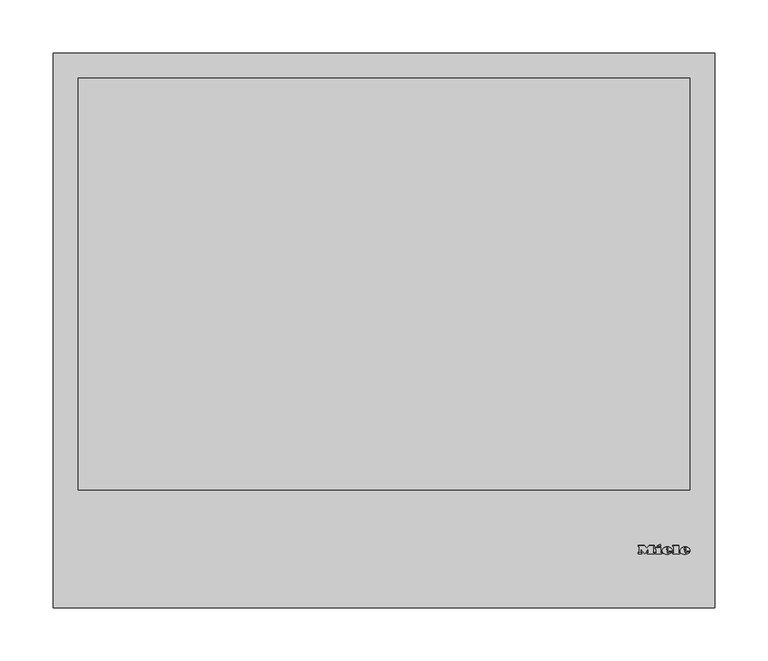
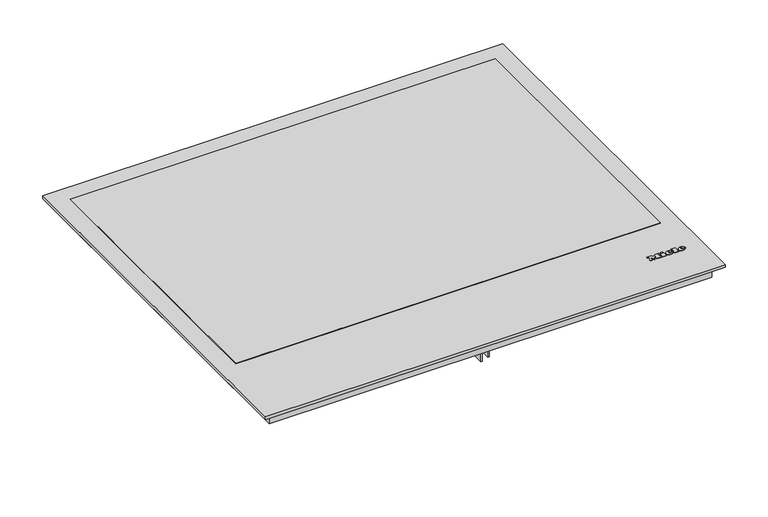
"""IFC4 building model written with IfcOpenShell, lengths in millimetres: proxy geometry, 11154180_I_KM7667FL : 26766770_I_11154180_KM7667FL."""

from ifc_helpers import new_model, si_unit, point, frame, frame_2d, origin, origin_with_axes, place, context, project, spatial, polyline, circle_curve, ellipse_curve, trimmed, segment, composite_curve, outline, extrude, source, transform, mapped, element, save
from ifc_brep_helpers import plane_surface, cylinder_surface, revolved_surface, extruded_surface, advanced_brep


def specialty_equipment_dca31267(model_context):
    return source(origin(), model_context, "Body", "SolidModel", [
        advanced_brep(
        [(281.56, 52.3948833, 4.4802537), (281.56, 53.2028828, 4.4811551), (286.912, 53.2028828, 4.4811551), (277.6, 53.2028828, 4.4811551), (279.8, 50.4988845, 4.4781386), (286.776, 52.3948833, 4.4802537), (284.36, 52.3948833, 4.4802537), (282.456, 51.4988838, 4.4792542), (281.56, 54.2268821, 4.4822974), (281.56, 55.0988816, 4.4832701), (282.928, 55.0988816, 4.4832701), (282.928, 54.2268821, 4.4822974), (281.56, 52.3959988, 3.4802543), (282.456, 51.4999994, 3.4792548), (284.36, 52.3959988, 3.4802543), (286.776, 52.3959988, 3.4802543), (279.8, 50.5, 3.4781393), (277.6, 53.2039983, 3.4811557), (286.912, 53.2039983, 3.4811557), (281.56, 53.2039983, 3.4811557), (281.56, 54.2279977, 3.482298), (282.928, 54.2279977, 3.482298), (282.928, 55.0999971, 3.4832707), (281.56, 55.0999971, 3.4832707)],
        [
            (0, 1),
            (1, 2),
            (2, 3, ellipse_curve(frame((282.256, 53.2028828, 4.4811551), z_axis=(0.0, -0.0011155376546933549, 0.9999993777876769), x_axis=(-1.0, 0.0, 0.0)), 4.656, 3.848)),
            (3, 4, circle_curve(frame((280.6960436, 53.4748826, 4.4814585), z_axis=(0.0, -0.0011155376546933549, 0.9999993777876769), x_axis=(0.0, -0.9999993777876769, -0.0011155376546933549)), 3.1079688)),
            (4, 5, circle_curve(frame((282.1627936, 55.5868813, 4.4838145), z_axis=(0.0, -0.0011155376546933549, 0.9999993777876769), x_axis=(0.0, -0.9999993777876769, -0.0011155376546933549)), 5.6098607)),
            (5, 6),
            (6, 7, circle_curve(frame((282.8470588, 53.1388828, 4.4810837), z_axis=(0.0, 0.0011155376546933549, -0.9999993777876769), x_axis=(0.0, -0.9999993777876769, -0.0011155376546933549)), 1.6859795)),
            (7, 0, circle_curve(frame((282.456, 52.3948833, 4.4802537), z_axis=(0.0, 0.0011155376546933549, -0.9999993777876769), x_axis=(0.0, -0.9999993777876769, -0.0011155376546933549)), 0.896)),
            (8, 9),
            (9, 10, circle_curve(frame((282.244, 55.0988816, 4.4832701), z_axis=(0.0, 0.0011155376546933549, -0.9999993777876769), x_axis=(0.0, -0.9999993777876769, -0.0011155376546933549)), 0.684)),
            (10, 11),
            (11, 8),
            (12, 13, circle_curve(frame((282.456, 52.3959988, 3.4802543), z_axis=(0.0, -0.0011155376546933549, 0.9999993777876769), x_axis=(0.0, -0.9999993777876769, -0.0011155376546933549)), 0.896)),
            (13, 14, circle_curve(frame((282.8470588, 53.1399984, 3.4810843), z_axis=(0.0, -0.0011155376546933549, 0.9999993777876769), x_axis=(0.0, -0.9999993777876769, -0.0011155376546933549)), 1.6859795)),
            (14, 15),
            (15, 16, circle_curve(frame((282.1627936, 55.5879968, 3.4838151), z_axis=(0.0, 0.0011155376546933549, -0.9999993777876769), x_axis=(0.0, -0.9999993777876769, -0.0011155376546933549)), 5.6098607)),
            (16, 17, circle_curve(frame((280.6960436, 53.4759981, 3.4814591), z_axis=(0.0, 0.0011155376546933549, -0.9999993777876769), x_axis=(0.0, -0.9999993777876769, -0.0011155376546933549)), 3.1079688)),
            (17, 18, ellipse_curve(frame((282.256, 53.2039983, 3.4811557), z_axis=(0.0, 0.0011155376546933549, -0.9999993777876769), x_axis=(-1.0, 0.0, 0.0)), 4.656, 3.848)),
            (18, 19),
            (19, 12),
            (20, 21),
            (21, 22),
            (22, 23, circle_curve(frame((282.244, 55.0999971, 3.4832707), z_axis=(0.0, -0.0011155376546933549, 0.9999993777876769), x_axis=(0.0, -0.9999993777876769, -0.0011155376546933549)), 0.684)),
            (23, 20),
            (0, 12),
            (19, 1),
            (18, 2),
            (5, 15),
            (14, 6),
            (17, 3),
            (13, 7),
            (16, 4),
            (8, 20),
            (23, 9),
            (22, 10),
            (21, 11),
        ],
        [
            plane_surface(frame((281.56, 53.2028828, 4.4811551), z_axis=(0.0, -0.0011155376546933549, 0.9999993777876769), x_axis=(0.0, 0.9999993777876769, 0.0011155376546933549))),
            plane_surface(frame((281.56, 53.2039983, 3.4811557), z_axis=(0.0, 0.0011155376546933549, -0.9999993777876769), x_axis=(0.0, -0.9999993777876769, -0.0011155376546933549))),
            plane_surface(frame((281.56, 52.3948833, 4.4802537), z_axis=(1.0000000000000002, 0.0, 0.0), x_axis=(0.0, 0.001115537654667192, -0.999999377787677))),
            plane_surface(frame((281.56, 53.2028828, 4.4811551), z_axis=(0.0, -0.999999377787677, -0.001115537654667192), x_axis=(0.0, 0.001115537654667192, -0.999999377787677))),
            plane_surface(frame((286.776, 52.3948833, 4.4802537), z_axis=(0.0, 0.999999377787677, 0.001115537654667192), x_axis=(0.0, 0.001115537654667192, -0.999999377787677))),
            extruded_surface(trimmed(ellipse_curve(frame((282.256, 53.2051139, 2.4811563), z_axis=(0.0, -0.0011155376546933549, 0.9999993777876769), x_axis=(-1.0, 0.0, 0.0)), 4.656, 3.848), [point((286.912, 53.2051139, 2.4811563))], [point((277.6, 53.2051139, 2.4811563))], True, "CARTESIAN"), (0.0, -0.001115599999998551, 0.9999994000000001), 1.00000002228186),
            revolved_surface(polyline([(282.8470588, 51.454019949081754, 3.479203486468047), (282.8470588, 51.45290441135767, 4.4792029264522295)]), (282.8470588, 53.1399984, 3.4810843), (0.0, 0.0011155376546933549, -0.9999993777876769)),
            revolved_surface(polyline([(282.456, 51.49999935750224, 3.4792547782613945), (282.456, 51.49888381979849, 4.479254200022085)]), (282.456, 52.3959988, 3.4802543), (0.0, 0.0011155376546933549, -0.9999993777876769)),
            cylinder_surface(frame((280.6960436, 53.4759981, 3.4814591), z_axis=(0.0, -0.0011155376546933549, 0.9999993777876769), x_axis=(0.0, -0.9999993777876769, -0.0011155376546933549)), 3.1079688),
            cylinder_surface(frame((282.1627936, 55.5879968, 3.4838151), z_axis=(0.0, -0.0011155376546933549, 0.9999993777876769), x_axis=(0.0, -0.9999993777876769, -0.0011155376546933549)), 5.6098607),
            plane_surface(frame((281.56, 54.2268821, 4.4822974), z_axis=(1.0000000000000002, 0.0, 0.0), x_axis=(0.0, 0.001115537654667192, -0.999999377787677))),
            revolved_surface(polyline([(282.244, 54.415997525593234, 3.4825076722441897), (282.244, 54.41488198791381, 4.482507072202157)]), (282.244, 55.0999971, 3.4832707), (0.0, 0.0011155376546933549, -0.9999993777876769)),
            plane_surface(frame((282.928, 55.0988816, 4.4832701), z_axis=(-1.0000000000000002, 0.0, 0.0), x_axis=(0.0, 0.001115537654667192, -0.999999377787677))),
            plane_surface(frame((282.928, 54.2268821, 4.4822974), z_axis=(0.0, 0.999999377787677, 0.001115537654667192), x_axis=(0.0, 0.001115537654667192, -0.999999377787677))),
        ],
        [
            (0, [[1, 2, 3, 4, 5, 6, 7, 8], [9, 10, 11, 12]]),
            (1, [[13, 14, 15, 16, 17, 18, 19, 20], [21, 22, 23, 24]]),
            (2, [[-1, 25, -20, 26]]),
            (3, [[-2, -26, -19, 27]]),
            (4, [[-6, 28, -15, 29]]),
            (5, [[-3, -27, -18, 30]]),
            (6, [[-7, -29, -14, 31]]),
            (7, [[-8, -31, -13, -25]]),
            (8, [[-4, -30, -17, 32]]),
            (9, [[-5, -32, -16, -28]]),
            (10, [[-9, 33, -24, 34]]),
            (11, [[-10, -34, -23, 35]]),
            (12, [[-11, -35, -22, 36]]),
            (13, [[-12, -36, -21, -33]]),
        ],
    ),
        advanced_brep(
        [(264.864, 52.3948833, 4.4802537), (264.864, 53.2028828, 4.4811551), (270.216, 53.2028828, 4.4811551), (260.904, 53.2028828, 4.4811551), (263.104, 50.4988845, 4.4781386), (270.08, 52.3948833, 4.4802537), (267.664, 52.3948833, 4.4802537), (265.76, 51.4988838, 4.4792542), (264.864, 54.2268821, 4.4822974), (264.864, 55.0988816, 4.4832701), (266.232, 55.0988816, 4.4832701), (266.232, 54.2268821, 4.4822974), (264.864, 52.3959988, 3.4802543), (265.76, 51.4999994, 3.4792548), (267.664, 52.3959988, 3.4802543), (270.08, 52.3959988, 3.4802543), (263.104, 50.5, 3.4781393), (260.904, 53.2039983, 3.4811557), (270.216, 53.2039983, 3.4811557), (264.864, 53.2039983, 3.4811557), (264.864, 54.2279977, 3.482298), (266.232, 54.2279977, 3.482298), (266.232, 55.0999971, 3.4832707), (264.864, 55.0999971, 3.4832707)],
        [
            (0, 1),
            (1, 2),
            (2, 3, ellipse_curve(frame((265.56, 53.2028828, 4.4811551), z_axis=(0.0, -0.0011155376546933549, 0.9999993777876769), x_axis=(-1.0, 0.0, 0.0)), 4.656, 3.848)),
            (3, 4, circle_curve(frame((264.0000436, 53.4748826, 4.4814585), z_axis=(0.0, -0.0011155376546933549, 0.9999993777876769), x_axis=(0.0, -0.9999993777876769, -0.0011155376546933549)), 3.1079688)),
            (4, 5, circle_curve(frame((265.4667936, 55.5868813, 4.4838145), z_axis=(0.0, -0.0011155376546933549, 0.9999993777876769), x_axis=(0.0, -0.9999993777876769, -0.0011155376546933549)), 5.6098607)),
            (5, 6),
            (6, 7, circle_curve(frame((266.1510588, 53.1388828, 4.4810837), z_axis=(0.0, 0.0011155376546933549, -0.9999993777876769), x_axis=(0.0, -0.9999993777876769, -0.0011155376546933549)), 1.6859795)),
            (7, 0, circle_curve(frame((265.76, 52.3948833, 4.4802537), z_axis=(0.0, 0.0011155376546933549, -0.9999993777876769), x_axis=(0.0, -0.9999993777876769, -0.0011155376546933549)), 0.896)),
            (8, 9),
            (9, 10, circle_curve(frame((265.548, 55.0988816, 4.4832701), z_axis=(0.0, 0.0011155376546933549, -0.9999993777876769), x_axis=(0.0, -0.9999993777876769, -0.0011155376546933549)), 0.684)),
            (10, 11),
            (11, 8),
            (12, 13, circle_curve(frame((265.76, 52.3959988, 3.4802543), z_axis=(0.0, -0.0011155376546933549, 0.9999993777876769), x_axis=(0.0, -0.9999993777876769, -0.0011155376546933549)), 0.896)),
            (13, 14, circle_curve(frame((266.1510588, 53.1399984, 3.4810843), z_axis=(0.0, -0.0011155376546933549, 0.9999993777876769), x_axis=(0.0, -0.9999993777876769, -0.0011155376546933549)), 1.6859795)),
            (14, 15),
            (15, 16, circle_curve(frame((265.4667936, 55.5879968, 3.4838151), z_axis=(0.0, 0.0011155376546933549, -0.9999993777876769), x_axis=(0.0, -0.9999993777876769, -0.0011155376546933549)), 5.6098607)),
            (16, 17, circle_curve(frame((264.0000436, 53.4759981, 3.4814591), z_axis=(0.0, 0.0011155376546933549, -0.9999993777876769), x_axis=(0.0, -0.9999993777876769, -0.0011155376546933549)), 3.1079688)),
            (17, 18, ellipse_curve(frame((265.56, 53.2039983, 3.4811557), z_axis=(0.0, 0.0011155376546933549, -0.9999993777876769), x_axis=(-1.0, 0.0, 0.0)), 4.656, 3.848)),
            (18, 19),
            (19, 12),
            (20, 21),
            (21, 22),
            (22, 23, circle_curve(frame((265.548, 55.0999971, 3.4832707), z_axis=(0.0, -0.0011155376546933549, 0.9999993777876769), x_axis=(0.0, -0.9999993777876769, -0.0011155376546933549)), 0.684)),
            (23, 20),
            (0, 12),
            (19, 1),
            (18, 2),
            (5, 15),
            (14, 6),
            (17, 3),
            (13, 7),
            (16, 4),
            (8, 20),
            (23, 9),
            (22, 10),
            (21, 11),
        ],
        [
            plane_surface(frame((264.864, 53.2028828, 4.4811551), z_axis=(0.0, -0.0011155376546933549, 0.9999993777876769), x_axis=(0.0, 0.9999993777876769, 0.0011155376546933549))),
            plane_surface(frame((264.864, 53.2039983, 3.4811557), z_axis=(0.0, 0.0011155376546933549, -0.9999993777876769), x_axis=(0.0, -0.9999993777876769, -0.0011155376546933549))),
            plane_surface(frame((264.864, 52.3948833, 4.4802537), z_axis=(1.0000000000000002, 0.0, 0.0), x_axis=(0.0, 0.001115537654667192, -0.999999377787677))),
            plane_surface(frame((264.864, 53.2028828, 4.4811551), z_axis=(0.0, -0.999999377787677, -0.001115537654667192), x_axis=(0.0, 0.001115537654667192, -0.999999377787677))),
            plane_surface(frame((270.08, 52.3948833, 4.4802537), z_axis=(0.0, 0.999999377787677, 0.001115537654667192), x_axis=(0.0, 0.001115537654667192, -0.999999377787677))),
            extruded_surface(trimmed(ellipse_curve(frame((265.56, 53.2051139, 2.4811563), z_axis=(0.0, -0.0011155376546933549, 0.9999993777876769), x_axis=(-1.0, 0.0, 0.0)), 4.656, 3.848), [point((270.216, 53.2051139, 2.4811563))], [point((260.904, 53.2051139, 2.4811563))], True, "CARTESIAN"), (0.0, -0.001115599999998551, 0.9999994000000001), 1.00000002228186),
            revolved_surface(polyline([(266.1510588, 51.454019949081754, 3.479203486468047), (266.1510588, 51.45290441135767, 4.4792029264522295)]), (266.1510588, 53.1399984, 3.4810843), (0.0, 0.0011155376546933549, -0.9999993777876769)),
            revolved_surface(polyline([(265.76, 51.49999935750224, 3.4792547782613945), (265.76, 51.49888381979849, 4.479254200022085)]), (265.76, 52.3959988, 3.4802543), (0.0, 0.0011155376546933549, -0.9999993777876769)),
            cylinder_surface(frame((264.0000436, 53.4759981, 3.4814591), z_axis=(0.0, -0.0011155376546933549, 0.9999993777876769), x_axis=(0.0, -0.9999993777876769, -0.0011155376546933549)), 3.1079688),
            cylinder_surface(frame((265.4667936, 55.5879968, 3.4838151), z_axis=(0.0, -0.0011155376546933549, 0.9999993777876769), x_axis=(0.0, -0.9999993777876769, -0.0011155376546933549)), 5.6098607),
            plane_surface(frame((264.864, 54.2268821, 4.4822974), z_axis=(1.0000000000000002, 0.0, 0.0), x_axis=(0.0, 0.001115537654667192, -0.999999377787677))),
            revolved_surface(polyline([(265.548, 54.415997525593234, 3.4825076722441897), (265.548, 54.41488198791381, 4.482507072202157)]), (265.548, 55.0999971, 3.4832707), (0.0, 0.0011155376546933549, -0.9999993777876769)),
            plane_surface(frame((266.232, 55.0988816, 4.4832701), z_axis=(-1.0000000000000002, 0.0, 0.0), x_axis=(0.0, 0.001115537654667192, -0.999999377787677))),
            plane_surface(frame((266.232, 54.2268821, 4.4822974), z_axis=(0.0, 0.999999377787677, 0.001115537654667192), x_axis=(0.0, 0.001115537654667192, -0.999999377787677))),
        ],
        [
            (0, [[1, 2, 3, 4, 5, 6, 7, 8], [9, 10, 11, 12]]),
            (1, [[13, 14, 15, 16, 17, 18, 19, 20], [21, 22, 23, 24]]),
            (2, [[-1, 25, -20, 26]]),
            (3, [[-2, -26, -19, 27]]),
            (4, [[-6, 28, -15, 29]]),
            (5, [[-3, -27, -18, 30]]),
            (6, [[-7, -29, -14, 31]]),
            (7, [[-8, -31, -13, -25]]),
            (8, [[-4, -30, -17, 32]]),
            (9, [[-5, -32, -16, -28]]),
            (10, [[-9, 33, -24, 34]]),
            (11, [[-10, -34, -23, 35]]),
            (12, [[-11, -35, -22, 36]]),
            (13, [[-12, -36, -21, -33]]),
        ],
    ),
        extrude(outline(polyline([(0.0, 0.0), (-0.0109086, -2.9993294), (-1.4390415, -2.9920868), (-1.4315307, 0.0), (0.0, 0.0)])), frame((256.12, 58.0279953, 3.486537), z_axis=(0.0, -0.001115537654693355, 0.999999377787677), x_axis=(-0.4247202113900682, 0.9053240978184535, 0.0010099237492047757)), (0.0, 0.0, 1.0), 1.0),
        extrude(outline(polyline([(-0.4933908, 2.4141097), (-2.7800844, -2.4601583), (-7.0459741, -0.4588767), (-7.4401145, -1.299018), (-8.6568709, -0.728194), (-5.9760369, 4.9862153), (-4.7592805, 4.4153913), (-5.1636142, 3.5535222), (-2.1941493, 2.1604399), (-1.7898157, 3.022309), (-0.4933908, 2.4141097)])), frame((256.12, 58.0279953, 3.486537), z_axis=(0.0, -0.001115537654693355, 0.999999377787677), x_axis=(-0.4247202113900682, 0.9053240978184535, 0.0010099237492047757)), (0.0, 0.0, 1.0), 1.0),
        extrude(outline(polyline([(0.0, 0.0), (0.0, -1.304), (-5.504, -1.304), (-5.504, 5.3519999), (-6.488, 5.3519999), (-6.488, 6.696), (0.0, 6.696), (0.0, 5.3519999), (-0.96, 5.3519999), (-0.96, 0.0), (0.0, 0.0)])), frame((270.664, 57.1959958, 3.4856089), z_axis=(0.0, -0.0011155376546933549, 0.9999993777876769), x_axis=(-1.0, 0.0, 0.0)), (0.0, 0.0, 1.0), 1.0),
        extrude(outline(polyline([(0.0, 0.0), (0.0, -1.304), (-5.576, -1.304), (-7.92, 1.696), (-10.256, -1.304), (-15.128, -1.304), (-15.128, 0.0), (-14.112, 0.0), (-14.112, 5.3519999), (-15.128, 5.3519999), (-15.128, 6.696), (-8.744, 6.696), (-8.744, 5.3519999), (-9.728, 5.3519999), (-9.728, 1.8807777), (-6.136, 6.696), (-2.56, 1.9488752), (-2.56, 5.3519999), (-3.52, 5.3519999), (-3.52, 6.696), (0.0, 6.696), (0.0, 5.3519999), (-0.968, 5.3519999), (-0.968, 0.0), (0.0, 0.0)])), frame((238.2, 57.1959958, 3.4856089), z_axis=(0.0, -0.0011155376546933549, 0.9999993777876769), x_axis=(-1.0, 0.0, 0.0)), (0.0, 0.0, 1.0), 1.0),
        extrude(outline(polyline([(210.7772603, 464.0), (203.4, 464.0), (203.4, 465.2557039), (209.5215564, 465.2557039), (209.5215564, 468.5519266), (203.870889, 468.5519266), (203.870889, 469.8076304), (209.5215564, 469.8076304), (209.5215564, 472.7899271), (203.556963, 472.7899271), (203.556963, 474.045631), (210.7772603, 474.045631), (210.7772603, 464.0)])), frame((0.0, 0.0, -77.5), z_axis=(0.0, 0.0, 1.0), x_axis=(1.0, 0.0, 0.0)), (0.0, 0.0, 1.0), 1.0),
        extrude(outline(polyline([(201.5164442, 464.0), (195.2379248, 464.0), (195.2379248, 465.2557039), (200.2607403, 465.2557039), (200.2607403, 474.045631), (201.5164442, 474.045631), (201.5164442, 464.0)])), frame((0.0, 0.0, -77.5), z_axis=(0.0, 0.0, 1.0), x_axis=(1.0, 0.0, 0.0)), (0.0, 0.0, 1.0), 1.0),
        extrude(outline(polyline([(14.0, -27.0), (14.0, -16.8), (62.5, -16.8), (62.5, -43.0), (30.0, -43.0), (30.0, -27.0), (14.0, -27.0)])), frame((-2.0, 0.0, 0.0), z_axis=(1.0, 0.0, 0.0), x_axis=(0.0, 1.0, 0.0)), (0.0, 0.0, 1.0), 2.0),
        extrude(outline(polyline([(490.0, -27.0), (490.0, -43.0), (482.5, -43.0), (482.5, -16.8), (506.0, -16.8), (506.0, -27.0), (490.0, -27.0)])), frame((-2.0, 0.0, 0.0), z_axis=(1.0, 0.0, 0.0), x_axis=(0.0, 1.0, 0.0)), (0.0, 0.0, 1.0), 2.0),
        extrude(outline(polyline([(265.5, 482.5), (265.5, 62.5), (-265.5, 62.5), (-265.5, 482.5), (265.5, 482.5)])), frame((0.0, 0.0, -46.5), z_axis=(0.0, 0.0, 1.0), x_axis=(1.0, 0.0, 0.0)), (0.0, 0.0, 1.0), 29.7),
        extrude(outline(polyline([(310.0, 520.0), (310.0, 0.0), (-310.0, 0.0), (-310.0, 520.0), (310.0, 520.0)])), origin_with_axes(), (0.0, 0.0, 1.0), 4.0),
        extrude(outline(polyline([(298.5, 508.5), (298.5, 11.5), (-298.5, 11.5), (-298.5, 508.5), (298.5, 508.5)])), frame((0.0, 0.0, -16.8), z_axis=(0.0, 0.0, 1.0), x_axis=(1.0, 0.0, 0.0)), (0.0, 0.0, 1.0), 16.8),
        extrude(outline(composite_curve([segment(trimmed(circle_curve(frame_2d((203.4, 469.0)), 7.5), [point((203.4, 476.5))], [point((203.4, 461.5))], False, "CARTESIAN"), True, "CONTINUOUS"), segment(trimmed(circle_curve(frame_2d((203.4, 469.0)), 7.5), [point((203.4, 461.5))], [point((203.4, 476.5))], False, "CARTESIAN"), True, "CONTINUOUS")], self_intersect=False)), frame((0.0, 0.0, -76.5), z_axis=(0.0, 0.0, 1.0), x_axis=(1.0, 0.0, 0.0)), (0.0, 0.0, 1.0), 30.0),
        extrude(outline(polyline([(286.5, 496.5), (286.5, 110.5), (-286.5, 110.5), (-286.5, 496.5), (286.5, 496.5)])), frame((0.0, 0.0, 4.0), z_axis=(0.0, 0.0, 1.0), x_axis=(1.0, 0.0, 0.0)), (0.0, 0.0, 1.0), 1.0),
        extrude(outline(composite_curve([segment(trimmed(circle_curve(frame_2d((-291.0, 80.0)), 3.0), [point((-291.0, 83.0))], [point((-291.0, 77.0))], False, "CARTESIAN"), True, "CONTINUOUS"), segment(trimmed(circle_curve(frame_2d((-291.0, 80.0)), 3.0), [point((-291.0, 77.0))], [point((-291.0, 83.0))], False, "CARTESIAN"), True, "CONTINUOUS")], self_intersect=False)), frame((0.0, 0.0, -22.0), z_axis=(0.0, 0.0, 1.0), x_axis=(1.0, 0.0, 0.0)), (0.0, 0.0, 1.0), 5.2),
        extrude(outline(composite_curve([segment(trimmed(circle_curve(frame_2d((291.0, 440.0)), 3.0), [point((291.0, 443.0))], [point((291.0, 437.0))], False, "CARTESIAN"), True, "CONTINUOUS"), segment(trimmed(circle_curve(frame_2d((291.0, 440.0)), 3.0), [point((291.0, 437.0))], [point((291.0, 443.0))], False, "CARTESIAN"), True, "CONTINUOUS")], self_intersect=False)), frame((0.0, 0.0, -22.0), z_axis=(0.0, 0.0, 1.0), x_axis=(1.0, 0.0, 0.0)), (0.0, 0.0, 1.0), 5.2),
    ])


if __name__ == "__main__":
    model = new_model("IFC4")
    model_context = context("Model", 3, world=origin())
    ifc_project = project(units=[si_unit("LENGTHUNIT", "METRE", prefix="MILLI")], contexts=[model_context])
    site = spatial("IfcSite", under=ifc_project)
    building = spatial("IfcBuilding", under=site)
    placement = place(None, origin())
    specialty_equipment_shape = specialty_equipment_dca31267(model_context)
    element("IfcBuildingElementProxy", 1, Name="11154180_I_KM7667FL : 26766770_I_11154180_KM7667FL", ObjectType="11154180_I_KM7667FL : 26766770_I_11154180_KM7667FL", at=placement, inside=building, context=model_context, shape_type="MappedRepresentation", body=[
        mapped(specialty_equipment_shape, transform((0.0, 0.0, 0.0), x_axis=(1.0, 0.0, 0.0), y_axis=(0.0, 1.0, 0.0), z_axis=(0.0, 0.0, 1.0))),
    ])
    save(model, "model.ifc")
